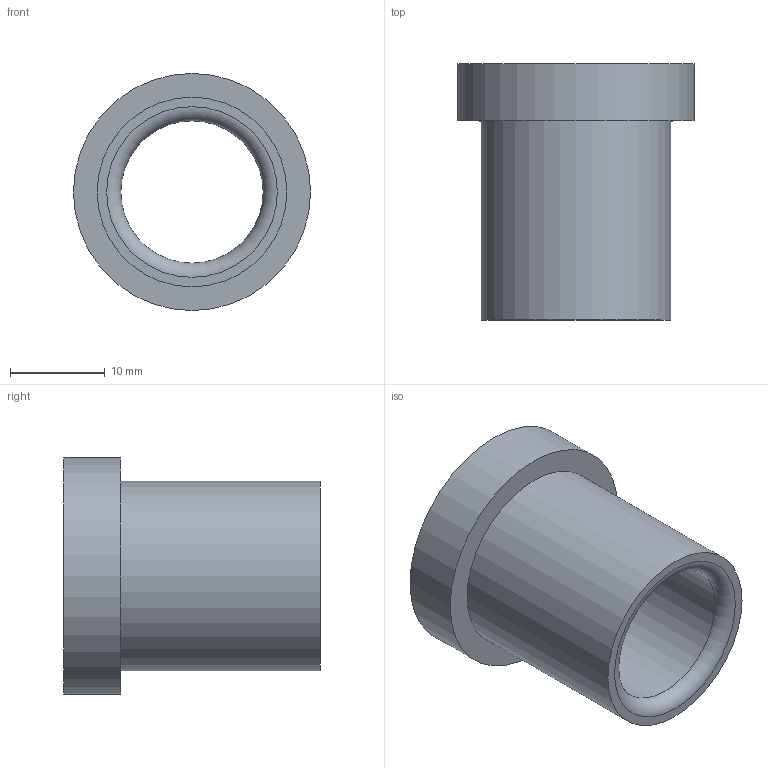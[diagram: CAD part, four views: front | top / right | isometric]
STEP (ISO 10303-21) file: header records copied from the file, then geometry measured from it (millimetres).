
FILE_DESCRIPTION(/* description */ ('STEP AP214'),/* implementation_level */ '2;1');
FILE_NAME(/* name */ '03_12_17909',/* time_stamp */ '2023-06-15T11:35:25+02:00',/* author */ ('License CC BY-ND 4.0'),/* organization */ ('CADENAS'),/* preprocessor_version */ 'ST-DEVELOPER v19.3',/* originating_system */ 'PARTsolutions',/* authorisation */ ' ');
FILE_SCHEMA (('AUTOMOTIVE_DESIGN {1 0 10303 214 3 1 1}'));
Length unit declared in the file: millimetre
Products named in the file (1): VA_Bushing_17909
Bounding box: 25 x 27 x 25 mm (x, y, z)
Volume: 4645 mm3; surface area: 3641.7 mm2
Topology: 1 solids, 1 shells, 10 faces, 16 edges, 10 vertices
Faces by surface type: cylinder 4, plane 4, torus 2
Full cylindrical faces by diameter (mm): 15 x1, 15.6 x1, 20 x1, 25 x1
Entity records: 302 total; most frequent: DIRECTION 42, CARTESIAN_POINT 31, AXIS2_PLACEMENT_3D 21, ORIENTED_EDGE 20, EDGE_LOOP 20, FACE_BOUND 20, EDGE_CURVE 10, VERTEX_POINT 10
